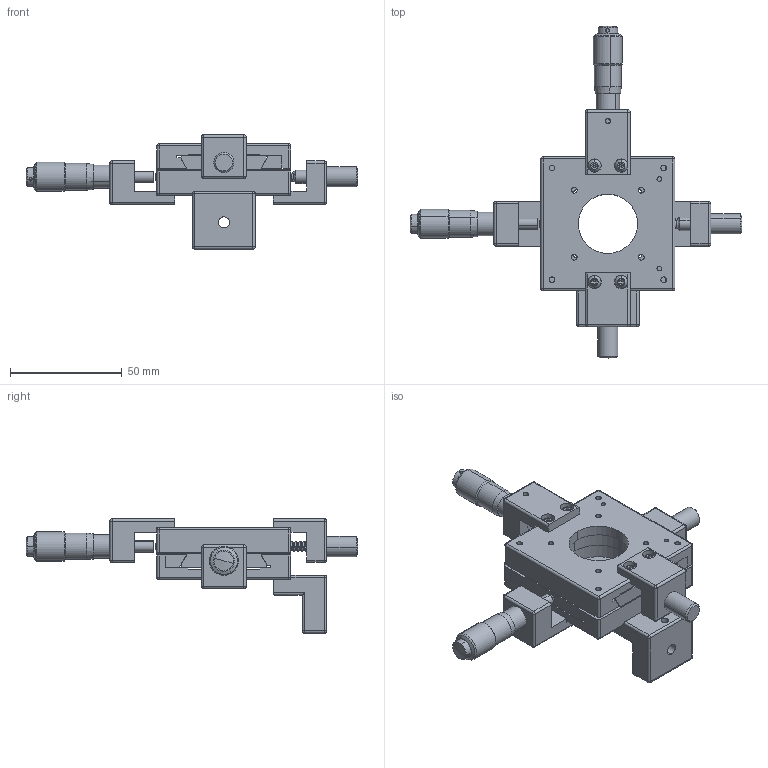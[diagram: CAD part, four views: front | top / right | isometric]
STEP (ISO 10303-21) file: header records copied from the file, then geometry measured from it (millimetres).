
FILE_DESCRIPTION (( 'STEP AP203' ), '1' );
FILE_NAME ('7MM1230謗峎す痄覃淕噩殤.STEP', '2018-03-05T02:34:55', ( '' ), ( '' ), 'SwSTEP 2.0', 'SolidWorks 2014', '' );
FILE_SCHEMA (( 'CONFIG_CONTROL_DESIGN' ));
Length unit declared in the file: millimetre
Products named in the file (1): 7MM1230謗峎す痄覃淕噩殤
Bounding box: 148.5 x 148.5 x 51.2 mm (x, y, z)
Surface area: 50080 mm2 (no closed solid volume)
Topology: 0 solids, 46 shells, 491 faces, 1472 edges, 959 vertices
Faces by surface type: plane 235, cylinder 166, sphere 54, cone 32, bspline 4
Entity records: 23974 total; most frequent: CARTESIAN_POINT 10505, DIRECTION 2982, ORIENTED_EDGE 2430, EDGE_CURVE 1442, AXIS2_PLACEMENT_3D 1080, VERTEX_POINT 959, VECTOR 822, LINE 822
